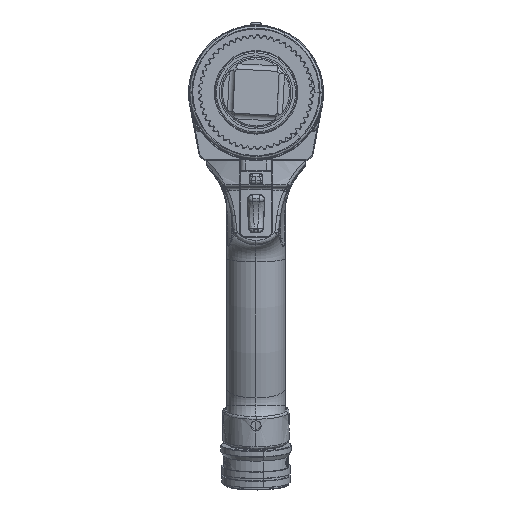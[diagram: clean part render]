
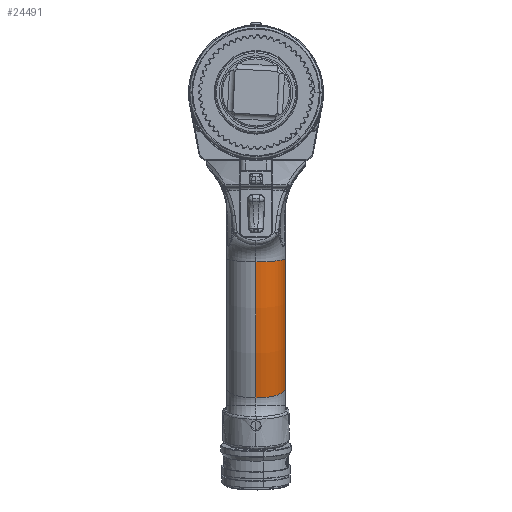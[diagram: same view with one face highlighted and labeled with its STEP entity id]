
A CAD part, top view. The second image highlights one B-rep face of the part: STEP entity #24491.
In plain terms, the highlighted toroidal (fillet/blend) face has major radius 363.555 mm and minor radius 16.662 mm.
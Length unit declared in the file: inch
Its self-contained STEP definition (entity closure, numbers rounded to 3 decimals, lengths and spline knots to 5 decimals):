
#2191 = CARTESIAN_POINT ( 'NONE',  ( 0., -2.019, -15.606 ) ) ;
#17182 = CIRCLE ( 'NONE', #104149, 0.656 ) ;
#23603 = VERTEX_POINT ( 'NONE', #109633 ) ;
#24479 = ORIENTED_EDGE ( 'NONE', *, *, #32577, .F. ) ;
#24491 = ADVANCED_FACE ( 'NONE', ( #116392 ), #116674, .T. ) ;
#30881 = CIRCLE ( 'NONE', #107217, 0.656 ) ;
#32412 = CIRCLE ( 'NONE', #76977, 14.31321 ) ;
#32577 = EDGE_CURVE ( 'NONE', #23603, #107467, #32412, .T. ) ;
#34364 = DIRECTION ( 'NONE',  ( 0., 0.326, -0.945 ) ) ;
#37460 = DIRECTION ( 'NONE',  ( 1., 0., 0. ) ) ;
#38090 = DIRECTION ( 'NONE',  ( -1., 0., 0. ) ) ;
#48683 = ORIENTED_EDGE ( 'NONE', *, *, #65009, .T. ) ;
#48822 = AXIS2_PLACEMENT_3D ( 'NONE', #2191, #101914, #93892 ) ;
#51911 = CARTESIAN_POINT ( 'NONE',  ( 0., -3.82235, -0.74582 ) ) ;
#53423 = AXIS2_PLACEMENT_3D ( 'NONE', #118416, #38090, #77899 ) ;
#64826 = DIRECTION ( 'NONE',  ( 0., 0.12, -0.993 ) ) ;
#65009 = EDGE_CURVE ( 'NONE', #72009, #107467, #30881, .T. ) ;
#66816 = DIRECTION ( 'NONE',  ( 0., 0.993, 0.12 ) ) ;
#68309 = CIRCLE ( 'NONE', #53423, 14.96921 ) ;
#70600 = VERTEX_POINT ( 'NONE', #51911 ) ;
#72009 = VERTEX_POINT ( 'NONE', #117578 ) ;
#74008 = CARTESIAN_POINT ( 'NONE',  ( 0.656, -6.68654, -2.07522 ) ) ;
#76977 = AXIS2_PLACEMENT_3D ( 'NONE', #128354, #37460, #87202 ) ;
#77899 = DIRECTION ( 'NONE',  ( 0., 0., -1. ) ) ;
#87202 = DIRECTION ( 'NONE',  ( 0., 0., -1. ) ) ;
#93892 = DIRECTION ( 'NONE',  ( 0., 0., -1. ) ) ;
#96065 = CARTESIAN_POINT ( 'NONE',  ( 0., -6.68654, -2.07522 ) ) ;
#101914 = DIRECTION ( 'NONE',  ( 1., 0., 0. ) ) ;
#103027 = ORIENTED_EDGE ( 'NONE', *, *, #120303, .F. ) ;
#104149 = AXIS2_PLACEMENT_3D ( 'NONE', #106616, #66816, #64826 ) ;
#106616 = CARTESIAN_POINT ( 'NONE',  ( 0., -3.74333, -1.39704 ) ) ;
#107217 = AXIS2_PLACEMENT_3D ( 'NONE', #96065, #115359, #34364 ) ;
#107467 = VERTEX_POINT ( 'NONE', #74008 ) ;
#109633 = CARTESIAN_POINT ( 'NONE',  ( 0.656, -3.74333, -1.39704 ) ) ;
#114582 = EDGE_LOOP ( 'NONE', ( #48683, #24479, #129323, #103027 ) ) ;
#115359 = DIRECTION ( 'NONE',  ( 0., 0.945, 0.326 ) ) ;
#116392 = FACE_OUTER_BOUND ( 'NONE', #114582, .T. ) ;
#116674 = TOROIDAL_SURFACE ( 'NONE', #48822, 14.31321, 0.656 ) ;
#117578 = CARTESIAN_POINT ( 'NONE',  ( 0., -6.90046, -1.45508 ) ) ;
#118416 = CARTESIAN_POINT ( 'NONE',  ( 0., -2.019, -15.606 ) ) ;
#120303 = EDGE_CURVE ( 'NONE', #72009, #70600, #68309, .T. ) ;
#128354 = CARTESIAN_POINT ( 'NONE',  ( 0.656, -2.019, -15.606 ) ) ;
#129323 = ORIENTED_EDGE ( 'NONE', *, *, #130009, .F. ) ;
#130009 = EDGE_CURVE ( 'NONE', #70600, #23603, #17182, .T. ) ;
